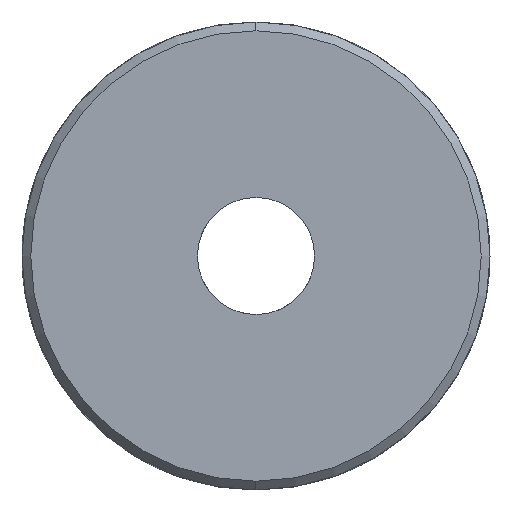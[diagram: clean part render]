
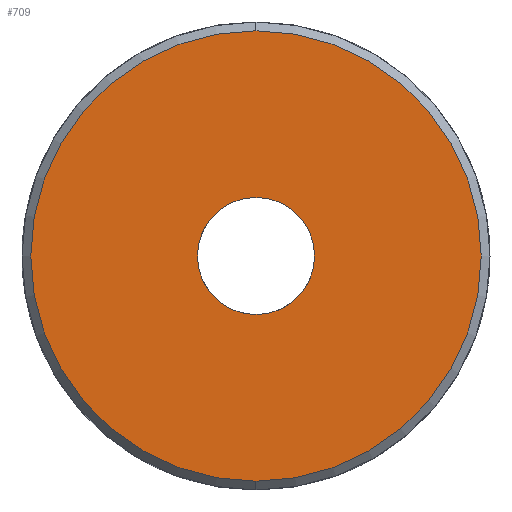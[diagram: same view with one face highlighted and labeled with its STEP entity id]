
A CAD part, left-side view. The second image highlights one B-rep face of the part: STEP entity #709.
In plain terms, the highlighted planar face has unit normal (-1, 0, 0).
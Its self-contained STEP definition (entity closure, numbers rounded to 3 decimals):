
#133 = VERTEX_POINT ( 'NONE', #1090 ) ;
#134 = VERTEX_POINT ( 'NONE', #1089 ) ;
#304 = EDGE_CURVE ( 'NONE', #397, #305, #1663, .T. ) ;
#305 = VERTEX_POINT ( 'NONE', #1658 ) ;
#333 = EDGE_CURVE ( 'NONE', #133, #134, #1647, .T. ) ;
#397 = VERTEX_POINT ( 'NONE', #1681 ) ;
#486 = EDGE_LOOP ( 'NONE', ( #487, #489 ) ) ;
#487 = ORIENTED_EDGE ( 'NONE', *, *, #488, .T. ) ;
#488 = EDGE_CURVE ( 'NONE', #134, #133, #1938, .T. ) ;
#489 = ORIENTED_EDGE ( 'NONE', *, *, #333, .T. ) ;
#490 = EDGE_LOOP ( 'NONE', ( #491, #673 ) ) ;
#491 = ORIENTED_EDGE ( 'NONE', *, *, #492, .F. ) ;
#492 = EDGE_CURVE ( 'NONE', #305, #397, #1937, .T. ) ;
#673 = ORIENTED_EDGE ( 'NONE', *, *, #304, .F. ) ;
#709 = ADVANCED_FACE ( 'NONE', ( #2223, #2222 ), #2221, .F. ) ;
#1089 = CARTESIAN_POINT ( 'NONE',  ( 0., 0., -7.7 ) ) ;
#1090 = CARTESIAN_POINT ( 'NONE',  ( 0., 0., 7.7 ) ) ;
#1563 = CARTESIAN_POINT ( 'NONE',  ( 0., 0., 0. ) ) ;
#1644 = DIRECTION ( 'NONE',  ( 0., 0., -1. ) ) ;
#1645 = DIRECTION ( 'NONE',  ( -1., 0., 0. ) ) ;
#1646 = AXIS2_PLACEMENT_3D ( 'NONE', #1563, #1645, #1644 ) ;
#1647 = CIRCLE ( 'NONE', #1646, 7.7 ) ;
#1658 = CARTESIAN_POINT ( 'NONE',  ( 0., 0., 2. ) ) ;
#1659 = DIRECTION ( 'NONE',  ( 0., 0., 1. ) ) ;
#1660 = DIRECTION ( 'NONE',  ( -1., 0., 0. ) ) ;
#1661 = CARTESIAN_POINT ( 'NONE',  ( 0., 0., 0. ) ) ;
#1662 = AXIS2_PLACEMENT_3D ( 'NONE', #1661, #1660, #1659 ) ;
#1663 = CIRCLE ( 'NONE', #1662, 2. ) ;
#1681 = CARTESIAN_POINT ( 'NONE',  ( 0., 0., -2. ) ) ;
#1936 = AXIS2_PLACEMENT_3D ( 'NONE', #1955, #2076, #2075 ) ;
#1937 = CIRCLE ( 'NONE', #1936, 2. ) ;
#1938 = CIRCLE ( 'NONE', #1954, 7.7 ) ;
#1951 = DIRECTION ( 'NONE',  ( 0., 0., -1. ) ) ;
#1952 = DIRECTION ( 'NONE',  ( -1., 0., 0. ) ) ;
#1953 = CARTESIAN_POINT ( 'NONE',  ( 0., 0., 0. ) ) ;
#1954 = AXIS2_PLACEMENT_3D ( 'NONE', #1953, #1952, #1951 ) ;
#1955 = CARTESIAN_POINT ( 'NONE',  ( 0., 0., 0. ) ) ;
#2075 = DIRECTION ( 'NONE',  ( 0., 0., 1. ) ) ;
#2076 = DIRECTION ( 'NONE',  ( -1., 0., 0. ) ) ;
#2217 = DIRECTION ( 'NONE',  ( 0., 0., -1. ) ) ;
#2218 = DIRECTION ( 'NONE',  ( 1., 0., 0. ) ) ;
#2219 = CARTESIAN_POINT ( 'NONE',  ( 0., 0., 0. ) ) ;
#2220 = AXIS2_PLACEMENT_3D ( 'NONE', #2219, #2218, #2217 ) ;
#2221 = PLANE ( 'NONE',  #2220 ) ;
#2222 = FACE_BOUND ( 'NONE', #490, .T. ) ;
#2223 = FACE_OUTER_BOUND ( 'NONE', #486, .T. ) ;
